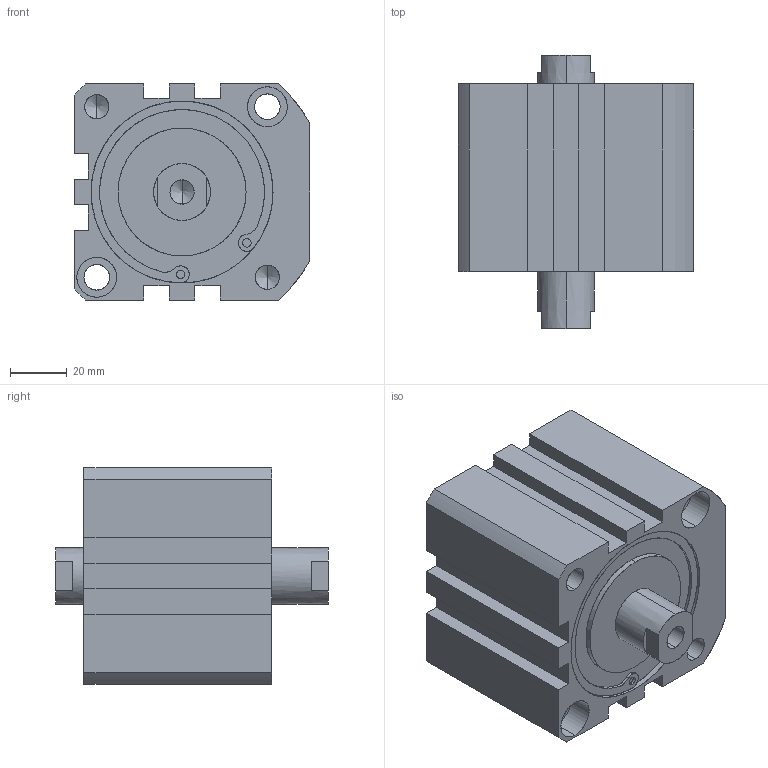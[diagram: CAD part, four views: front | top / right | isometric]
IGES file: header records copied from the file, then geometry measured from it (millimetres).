
Start section: SolidWorks IGES file using analytic representation for surfaces
Global section: file name: C:\Users\Toshiba\Desktop\XG#7-63-10.IGS; native system: SolidWorks 2014; preprocessor: SolidWorks 2014; author: Toshiba; date: 160524.100009; units: millimetre
Bounding box: 83 x 96 x 76 mm (x, y, z)
Surface area: 47808 mm2 (no closed solid volume)
Topology: 0 solids, 0 shells, 145 faces, 2650 edges, 2634 vertices
Faces by surface type: revolution 89, bspline 56
